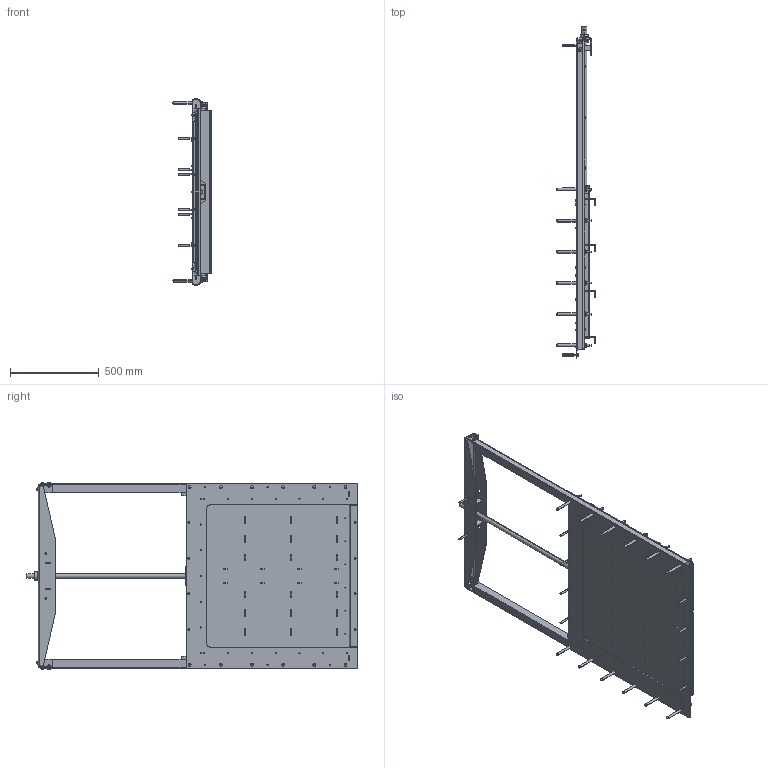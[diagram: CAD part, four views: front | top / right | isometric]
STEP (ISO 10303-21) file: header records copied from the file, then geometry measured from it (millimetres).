
FILE_DESCRIPTION (( 'STEP AP214' ), '1' );
FILE_NAME ('800x800.STEP', '2021-10-27T12:32:42', ( '' ), ( '' ), 'SwSTEP 2.0', 'SolidWorks 2020', '' );
FILE_SCHEMA (( 'AUTOMOTIVE_DESIGN' ));
Length unit declared in the file: millimetre
Products named in the file (1): 800x800
Bounding box: 219 x 1865 x 1051.8 mm (x, y, z)
Volume: 17391655.3 mm3; surface area: 5040250.9 mm2
Topology: 1 solids, 33 shells, 4379 faces, 11486 edges, 7254 vertices
Faces by surface type: cylinder 1761, plane 1537, cone 811, bspline 152, torus 86, sphere 32
Entity records: 149467 total; most frequent: CARTESIAN_POINT 44714, ORIENTED_EDGE 22696, DIRECTION 20615, EDGE_CURVE 11348, AXIS2_PLACEMENT_3D 7627, VERTEX_POINT 7230, VECTOR 5361, LINE 5361
